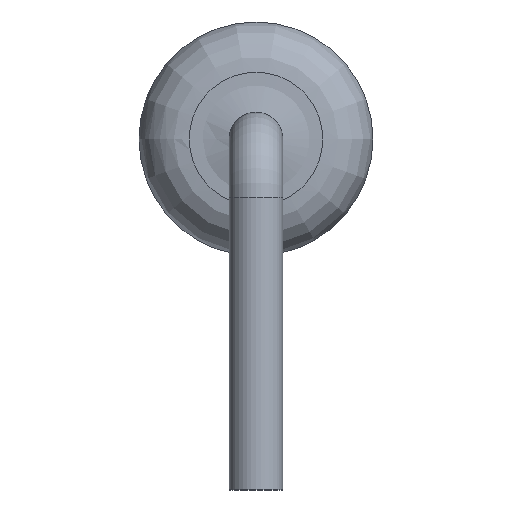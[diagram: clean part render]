
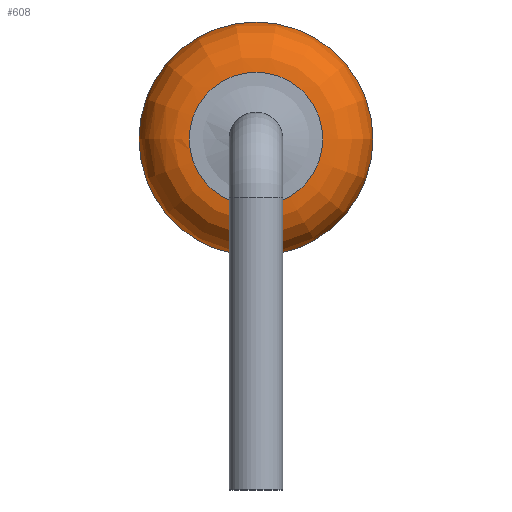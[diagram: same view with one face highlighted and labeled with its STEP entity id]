
A CAD part, left-side view. The second image highlights one B-rep face of the part: STEP entity #608.
In plain terms, the highlighted face is a revolution surface.
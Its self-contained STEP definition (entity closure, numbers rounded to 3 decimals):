
#367 = SURFACE_OF_REVOLUTION('',#368,#373);
#368 = CIRCLE('',#369,1.155);
#369 = AXIS2_PLACEMENT_3D('',#370,#371,#372);
#370 = CARTESIAN_POINT('',(-4.154,0.651,1.3));
#371 = DIRECTION('',(0.,0.,1.));
#372 = DIRECTION('',(1.,0.,0.));
#373 = AXIS1_PLACEMENT('',#374,#375);
#374 = CARTESIAN_POINT('',(0.,0.,1.3));
#375 = DIRECTION('',(1.,0.,0.));
#553 = VERTEX_POINT('',#554);
#554 = CARTESIAN_POINT('',(-3.,0.685,1.3));
#576 = EDGE_CURVE('',#553,#553,#577,.T.);
#577 = SURFACE_CURVE('',#578,(#583,#590),.PCURVE_S1.);
#578 = CIRCLE('',#579,0.685);
#579 = AXIS2_PLACEMENT_3D('',#580,#581,#582);
#580 = CARTESIAN_POINT('',(-3.,0.,1.3));
#581 = DIRECTION('',(1.,0.,0.));
#582 = DIRECTION('',(0.,1.,0.));
#583 = PCURVE('',#367,#584);
#584 = DEFINITIONAL_REPRESENTATION('',(#585),#589);
#585 = LINE('',#586,#587);
#586 = CARTESIAN_POINT('',(0.,6.313));
#587 = VECTOR('',#588,1.);
#588 = DIRECTION('',(1.,0.));
#589 = ( GEOMETRIC_REPRESENTATION_CONTEXT(2) 
PARAMETRIC_REPRESENTATION_CONTEXT() REPRESENTATION_CONTEXT('2D SPACE',''
  ) );
#590 = PCURVE('',#591,#600);
#591 = SURFACE_OF_REVOLUTION('',#592,#597);
#592 = CIRCLE('',#593,0.5);
#593 = AXIS2_PLACEMENT_3D('',#594,#595,#596);
#594 = CARTESIAN_POINT('',(-2.5,0.7,1.3));
#595 = DIRECTION('',(0.,0.,1.));
#596 = DIRECTION('',(1.,0.,0.));
#597 = AXIS1_PLACEMENT('',#598,#599);
#598 = CARTESIAN_POINT('',(0.,0.,1.3));
#599 = DIRECTION('',(1.,0.,0.));
#600 = DEFINITIONAL_REPRESENTATION('',(#601),#605);
#601 = LINE('',#602,#603);
#602 = CARTESIAN_POINT('',(0.,3.171));
#603 = VECTOR('',#604,1.);
#604 = DIRECTION('',(1.,0.));
#605 = ( GEOMETRIC_REPRESENTATION_CONTEXT(2) 
PARAMETRIC_REPRESENTATION_CONTEXT() REPRESENTATION_CONTEXT('2D SPACE',''
  ) );
#608 = ADVANCED_FACE('',(#609),#591,.F.);
#609 = FACE_BOUND('',#610,.F.);
#610 = EDGE_LOOP('',(#611,#640,#662,#663));
#611 = ORIENTED_EDGE('',*,*,#612,.T.);
#612 = EDGE_CURVE('',#613,#613,#615,.T.);
#613 = VERTEX_POINT('',#614);
#614 = CARTESIAN_POINT('',(-2.5,1.2,1.3));
#615 = SURFACE_CURVE('',#616,(#621,#628),.PCURVE_S1.);
#616 = CIRCLE('',#617,1.2);
#617 = AXIS2_PLACEMENT_3D('',#618,#619,#620);
#618 = CARTESIAN_POINT('',(-2.5,0.,1.3));
#619 = DIRECTION('',(1.,0.,0.));
#620 = DIRECTION('',(0.,1.,0.));
#621 = PCURVE('',#591,#622);
#622 = DEFINITIONAL_REPRESENTATION('',(#623),#627);
#623 = LINE('',#624,#625);
#624 = CARTESIAN_POINT('',(0.,1.571));
#625 = VECTOR('',#626,1.);
#626 = DIRECTION('',(1.,0.));
#627 = ( GEOMETRIC_REPRESENTATION_CONTEXT(2) 
PARAMETRIC_REPRESENTATION_CONTEXT() REPRESENTATION_CONTEXT('2D SPACE',''
  ) );
#628 = PCURVE('',#629,#634);
#629 = CYLINDRICAL_SURFACE('',#630,1.2);
#630 = AXIS2_PLACEMENT_3D('',#631,#632,#633);
#631 = CARTESIAN_POINT('',(-2.5,0.,1.3));
#632 = DIRECTION('',(1.,0.,0.));
#633 = DIRECTION('',(0.,1.,0.));
#634 = DEFINITIONAL_REPRESENTATION('',(#635),#639);
#635 = LINE('',#636,#637);
#636 = CARTESIAN_POINT('',(0.,0.));
#637 = VECTOR('',#638,1.);
#638 = DIRECTION('',(1.,0.));
#639 = ( GEOMETRIC_REPRESENTATION_CONTEXT(2) 
PARAMETRIC_REPRESENTATION_CONTEXT() REPRESENTATION_CONTEXT('2D SPACE',''
  ) );
#640 = ORIENTED_EDGE('',*,*,#641,.T.);
#641 = EDGE_CURVE('',#613,#553,#642,.T.);
#642 = SEAM_CURVE('',#643,(#648,#655),.PCURVE_S1.);
#643 = CIRCLE('',#644,0.5);
#644 = AXIS2_PLACEMENT_3D('',#645,#646,#647);
#645 = CARTESIAN_POINT('',(-2.5,0.7,1.3));
#646 = DIRECTION('',(0.,0.,1.));
#647 = DIRECTION('',(1.,0.,0.));
#648 = PCURVE('',#591,#649);
#649 = DEFINITIONAL_REPRESENTATION('',(#650),#654);
#650 = LINE('',#651,#652);
#651 = CARTESIAN_POINT('',(0.,0.));
#652 = VECTOR('',#653,1.);
#653 = DIRECTION('',(0.,1.));
#654 = ( GEOMETRIC_REPRESENTATION_CONTEXT(2) 
PARAMETRIC_REPRESENTATION_CONTEXT() REPRESENTATION_CONTEXT('2D SPACE',''
  ) );
#655 = PCURVE('',#591,#656);
#656 = DEFINITIONAL_REPRESENTATION('',(#657),#661);
#657 = LINE('',#658,#659);
#658 = CARTESIAN_POINT('',(6.283,0.));
#659 = VECTOR('',#660,1.);
#660 = DIRECTION('',(0.,1.));
#661 = ( GEOMETRIC_REPRESENTATION_CONTEXT(2) 
PARAMETRIC_REPRESENTATION_CONTEXT() REPRESENTATION_CONTEXT('2D SPACE',''
  ) );
#662 = ORIENTED_EDGE('',*,*,#576,.F.);
#663 = ORIENTED_EDGE('',*,*,#641,.F.);
